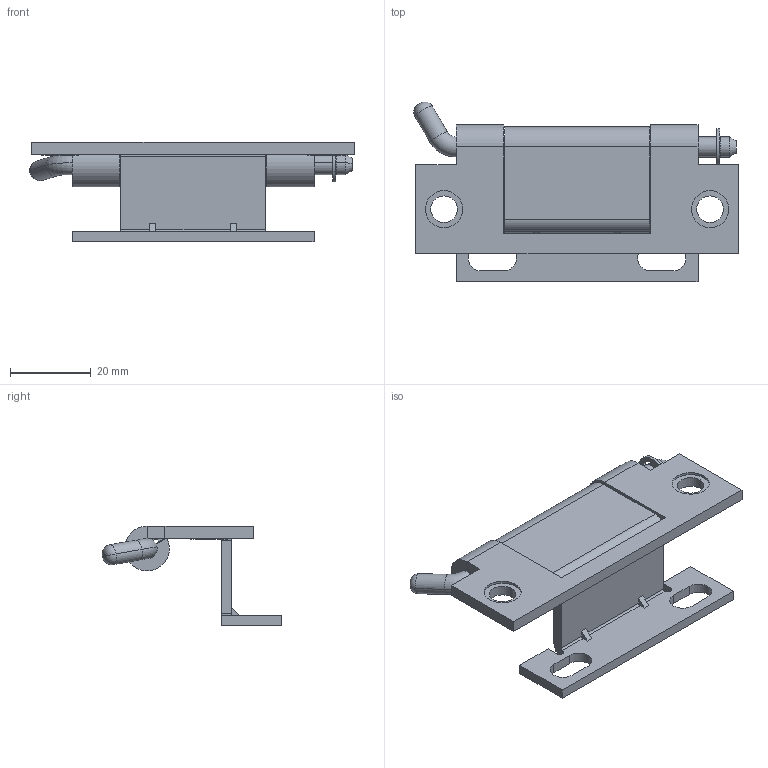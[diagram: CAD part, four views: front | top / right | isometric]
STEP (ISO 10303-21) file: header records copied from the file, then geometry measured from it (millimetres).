
FILE_DESCRIPTION (( 'STEP AP214' ), '1' );
FILE_NAME ('3.ST4-4.001.STEP', '2010-06-08T12:14:32', ( '£ukasz Cieæka' ), ( '' ), 'SwSTEP 2.0', 'SolidWorks 2010', '' );
FILE_SCHEMA (( 'AUTOMOTIVE_DESIGN' ));
Length unit declared in the file: millimetre
Products named in the file (5): 3B.St4.00.00.02; 3B.St4.00.00.03; DIN 6799 - 4; ST4-1 czêœæ wewn.; 3.ST4-4.001
Assembly tree (4 placements, depth 2):
  3.ST4-4.001
    ST4-1 czêœæ wewn.
    3B.St4.00.00.02
    3B.St4.00.00.03
    DIN 6799 - 4
Bounding box: 80.53 x 44.6 x 24.75 mm (x, y, z)
Volume: 13770.5 mm3; surface area: 12532.7 mm2
Topology: 4 solids, 4 shells, 135 faces, 325 edges, 206 vertices
Faces by surface type: plane 68, cylinder 61, torus 4, cone 2
Entity records: 4227 total; most frequent: CARTESIAN_POINT 765, DIRECTION 731, ORIENTED_EDGE 650, EDGE_CURVE 325, AXIS2_PLACEMENT_3D 268, VERTEX_POINT 206, VECTOR 195, LINE 195
